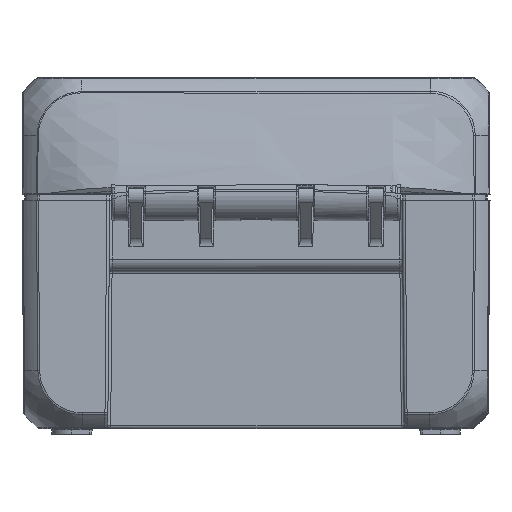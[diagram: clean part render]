
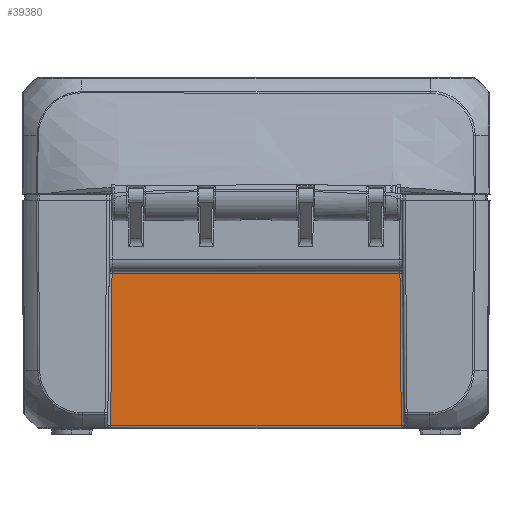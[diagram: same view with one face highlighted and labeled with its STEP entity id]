
A CAD part, left-side view. The second image highlights one B-rep face of the part: STEP entity #39380.
In plain terms, the highlighted planar face has unit normal (-1, 0, -0.009).
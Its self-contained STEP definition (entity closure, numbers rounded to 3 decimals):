
#1396=PLANE('',#42277);
#3616=FACE_OUTER_BOUND('',#6058,.T.);
#6058=EDGE_LOOP('',(#28059,#28060,#28061,#28062));
#9759=LINE('',#61398,#12832);
#9764=LINE('',#61459,#12837);
#9766=LINE('',#61512,#12839);
#9767=LINE('',#61515,#12840);
#12832=VECTOR('',#47575,10.);
#12837=VECTOR('',#47610,10.);
#12839=VECTOR('',#47620,10.);
#12840=VECTOR('',#47625,10.);
#16926=VERTEX_POINT('',#61392);
#16928=VERTEX_POINT('',#61396);
#16934=VERTEX_POINT('',#61458);
#16936=VERTEX_POINT('',#61511);
#21084=EDGE_CURVE('',#16928,#16926,#9759,.T.);
#21097=EDGE_CURVE('',#16926,#16934,#9764,.T.);
#21102=EDGE_CURVE('',#16934,#16936,#9766,.T.);
#21104=EDGE_CURVE('',#16936,#16928,#9767,.T.);
#28059=ORIENTED_EDGE('',*,*,#21084,.F.);
#28060=ORIENTED_EDGE('',*,*,#21104,.F.);
#28061=ORIENTED_EDGE('',*,*,#21102,.F.);
#28062=ORIENTED_EDGE('',*,*,#21097,.F.);
#39380=ADVANCED_FACE('',(#3616),#1396,.F.);
#42277=AXIS2_PLACEMENT_3D('',#61514,#47623,#47624);
#47575=DIRECTION('',(0.,-1.,0.));
#47610=DIRECTION('',(0.009,-0.009,-1.));
#47620=DIRECTION('',(0.,1.,0.));
#47623=DIRECTION('center_axis',(1.,0.,
0.009));
#47624=DIRECTION('ref_axis',(0.009,0.,-1.));
#47625=DIRECTION('',(-0.009,-0.009,1.));
#61392=CARTESIAN_POINT('',(-50.675,0.416,-21.995));
#61396=CARTESIAN_POINT('',(-50.675,49.634,-21.995));
#61398=CARTESIAN_POINT('',(-50.675,12.525,-21.995));
#61458=CARTESIAN_POINT('',(-50.448,0.189,-48.003));
#61459=CARTESIAN_POINT('',(-50.785,0.525,-9.457));
#61511=CARTESIAN_POINT('',(-50.448,49.861,-48.003));
#61512=CARTESIAN_POINT('',(-50.448,12.525,-48.003));
#61514=CARTESIAN_POINT('Origin',(-50.784,0.025,-9.499));
#61515=CARTESIAN_POINT('',(-50.786,49.523,-9.285));
